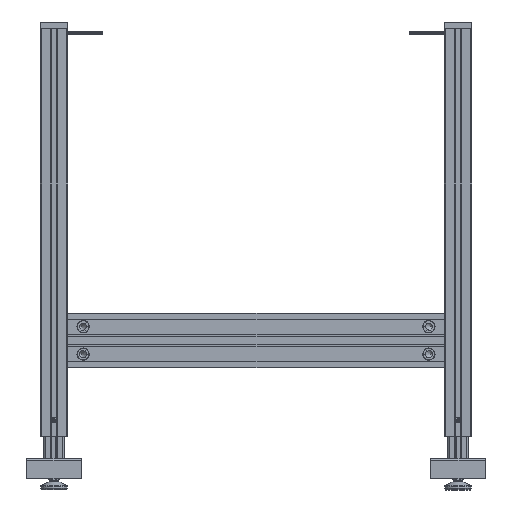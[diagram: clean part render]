
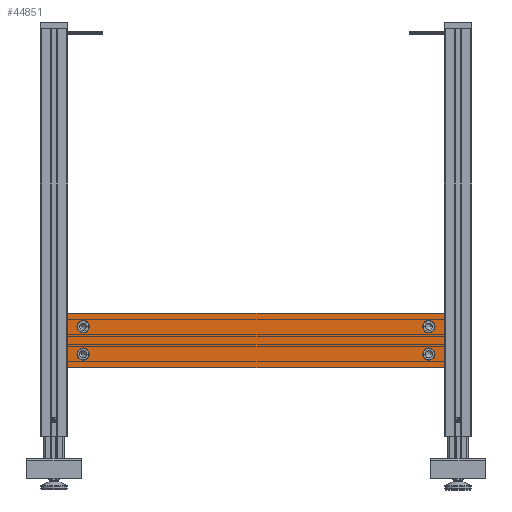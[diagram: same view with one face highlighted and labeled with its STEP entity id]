
A CAD part, left-side view. The second image highlights one B-rep face of the part: STEP entity #44851.
In plain terms, the highlighted planar face has unit normal (-1, 0, 0) as drawn and (1, 0, 0) by its records, which use the part's own axes.
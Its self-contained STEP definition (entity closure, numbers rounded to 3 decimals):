
#2989=CIRCLE('',#57256,9.);
#2990=CIRCLE('',#57257,9.);
#2991=CIRCLE('',#57258,9.);
#2992=CIRCLE('',#57259,9.);
#14773=ORIENTED_EDGE('',*,*,#22028,.T.);
#14774=ORIENTED_EDGE('',*,*,#22029,.T.);
#14775=ORIENTED_EDGE('',*,*,#22030,.T.);
#14776=ORIENTED_EDGE('',*,*,#22031,.T.);
#14777=ORIENTED_EDGE('',*,*,#22032,.T.);
#14778=ORIENTED_EDGE('',*,*,#22033,.F.);
#14779=ORIENTED_EDGE('',*,*,#22034,.T.);
#14780=ORIENTED_EDGE('',*,*,#22035,.T.);
#22028=EDGE_CURVE('',#26662,#26662,#2989,.T.);
#22029=EDGE_CURVE('',#26663,#26663,#2990,.T.);
#22030=EDGE_CURVE('',#26664,#26665,#31223,.T.);
#22031=EDGE_CURVE('',#26665,#26666,#31224,.T.);
#22032=EDGE_CURVE('',#26666,#26667,#31225,.T.);
#22033=EDGE_CURVE('',#26664,#26667,#31226,.T.);
#22034=EDGE_CURVE('',#26668,#26668,#2991,.T.);
#22035=EDGE_CURVE('',#26669,#26669,#2992,.T.);
#26662=VERTEX_POINT('',#82866);
#26663=VERTEX_POINT('',#82868);
#26664=VERTEX_POINT('',#82870);
#26665=VERTEX_POINT('',#82871);
#26666=VERTEX_POINT('',#82873);
#26667=VERTEX_POINT('',#82875);
#26668=VERTEX_POINT('',#82878);
#26669=VERTEX_POINT('',#82880);
#31223=LINE('',#82869,#35704);
#31224=LINE('',#82872,#35705);
#31225=LINE('',#82874,#35706);
#31226=LINE('',#82876,#35707);
#35704=VECTOR('',#69026,1000.);
#35705=VECTOR('',#69027,1000.);
#35706=VECTOR('',#69028,1000.);
#35707=VECTOR('',#69029,1000.);
#38278=EDGE_LOOP('',(#14773));
#38279=EDGE_LOOP('',(#14774));
#38280=EDGE_LOOP('',(#14775,#14776,#14777,#14778));
#38281=EDGE_LOOP('',(#14779));
#38282=EDGE_LOOP('',(#14780));
#40892=FACE_BOUND('',#38278,.T.);
#40893=FACE_BOUND('',#38279,.T.);
#40894=FACE_BOUND('',#38280,.T.);
#40895=FACE_BOUND('',#38281,.T.);
#40896=FACE_BOUND('',#38282,.T.);
#42648=PLANE('',#57255);
#44851=ADVANCED_FACE('',(#40892,#40893,#40894,#40895,#40896),#42648,.T.);
#57255=AXIS2_PLACEMENT_3D('',#82864,#69020,#69021);
#57256=AXIS2_PLACEMENT_3D('',#82865,#69022,#69023);
#57257=AXIS2_PLACEMENT_3D('',#82867,#69024,#69025);
#57258=AXIS2_PLACEMENT_3D('',#82877,#69030,#69031);
#57259=AXIS2_PLACEMENT_3D('',#82879,#69032,#69033);
#69020=DIRECTION('',(1.,0.,0.));
#69021=DIRECTION('',(0.,1.,0.));
#69022=DIRECTION('',(-1.,0.,0.));
#69023=DIRECTION('',(0.,0.,1.));
#69024=DIRECTION('',(-1.,0.,0.));
#69025=DIRECTION('',(0.,0.,1.));
#69026=DIRECTION('',(0.,1.,0.));
#69027=DIRECTION('',(0.,0.,1.));
#69028=DIRECTION('',(0.,-1.,0.));
#69029=DIRECTION('',(0.,0.,1.));
#69030=DIRECTION('',(-1.,0.,0.));
#69031=DIRECTION('',(0.,0.,1.));
#69032=DIRECTION('',(-1.,0.,0.));
#69033=DIRECTION('',(0.,0.,1.));
#82864=CARTESIAN_POINT('',(40.,80.,-1.));
#82865=CARTESIAN_POINT('',(40.,20.,527.5));
#82866=CARTESIAN_POINT('',(40.,20.,536.5));
#82867=CARTESIAN_POINT('',(40.,20.,22.5));
#82868=CARTESIAN_POINT('',(40.,20.,31.5));
#82869=CARTESIAN_POINT('',(40.,80.,0.));
#82870=CARTESIAN_POINT('',(40.,0.,0.));
#82871=CARTESIAN_POINT('',(40.,80.,0.));
#82872=CARTESIAN_POINT('',(40.,80.,-1.));
#82873=CARTESIAN_POINT('',(40.,80.,550.));
#82874=CARTESIAN_POINT('',(40.,40.,550.));
#82875=CARTESIAN_POINT('',(40.,0.,550.));
#82876=CARTESIAN_POINT('',(40.,0.,-1.));
#82877=CARTESIAN_POINT('',(40.,60.,22.5));
#82878=CARTESIAN_POINT('',(40.,60.,31.5));
#82879=CARTESIAN_POINT('',(40.,60.,527.5));
#82880=CARTESIAN_POINT('',(40.,60.,536.5));
